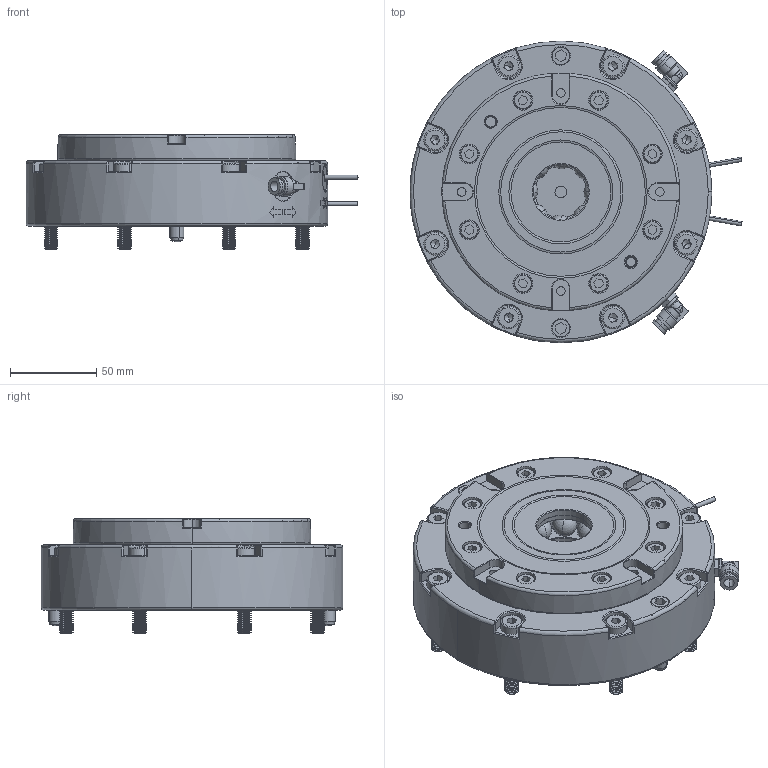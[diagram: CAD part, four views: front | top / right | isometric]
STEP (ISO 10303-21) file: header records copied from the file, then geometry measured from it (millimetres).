
FILE_DESCRIPTION (( 'STEP AP214' ), '1' );
FILE_NAME ('LQFLJ-20.STEP', '2023-08-25T00:35:04', ( '' ), ( '' ), 'SwSTEP 2.0', 'SolidWorks 2018', '' );
FILE_SCHEMA (( 'AUTOMOTIVE_DESIGN' ));
Length unit declared in the file: millimetre
Products named in the file (3): 蚾饜极---聆彸; LQFLJ-20; LQNCD-20
Assembly tree (2 placements, depth 2):
  LQFLJ-20
    蚾饜极---聆彸
    LQNCD-20
Bounding box: 192.61 x 175 x 66.5 mm (x, y, z)
Volume: 1052191.5 mm3; surface area: 206445.8 mm2
Topology: 22 solids, 35 shells, 2674 faces, 6579 edges, 4050 vertices
Faces by surface type: cone 1016, cylinder 783, plane 595, torus 151, bspline 85, sphere 44
Entity records: 116614 total; most frequent: CARTESIAN_POINT 30388, DIRECTION 14310, ORIENTED_EDGE 12954, EDGE_CURVE 6477, AXIS2_PLACEMENT_3D 5842, VERTEX_POINT 4034, CIRCLE 3248, EDGE_LOOP 2895
